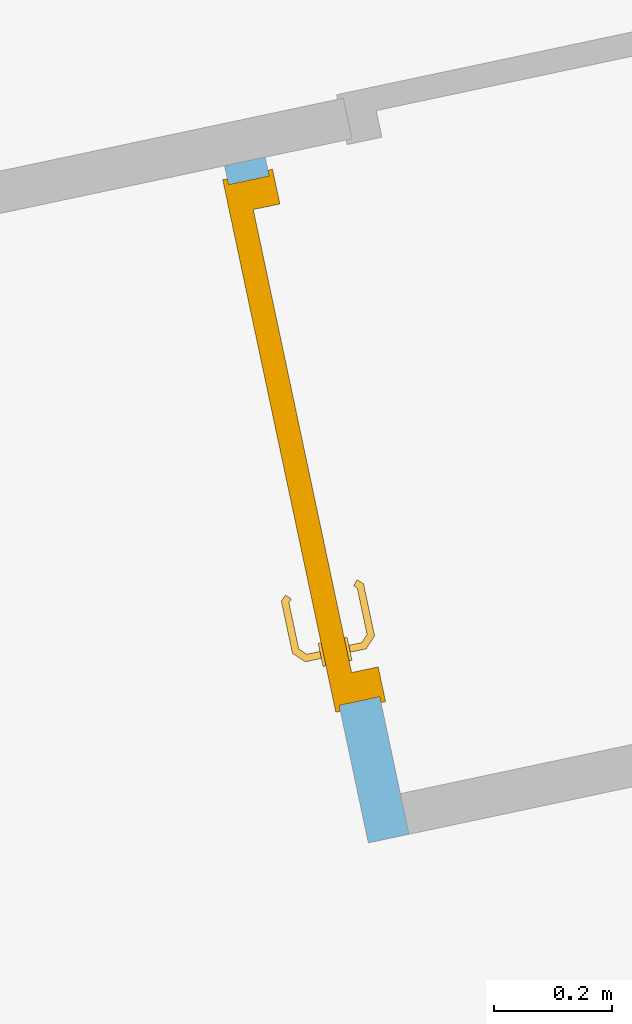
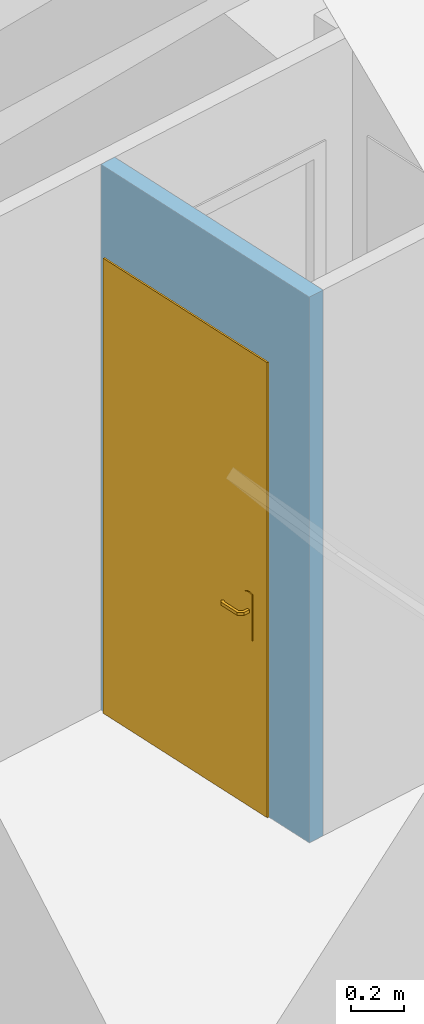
# One storey, part 6 of 10: 1 door, 1 opening, plus 1 element that does not belong to this part.
"""IFC2X3 building model written with IfcOpenShell, lengths in centimetres."""

from ifc_helpers import new_model, entity, si_unit, converted_unit, derived_unit, direction, frame, frame_2d, origin, place, context, subcontext, project, spatial, rectangle, extrude, faceted_brep, source, transform, mapped, material, layer, layer_set, layer_usage, type_object, type_shapes, element, fill, save


model = new_model("IFC2X3")

# Units and contexts
model_context = context("Model", 3, precision=0.001, world=origin(), true_north=direction((6.12303176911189e-17, 1.0)))
body_context = subcontext(model_context, "Body", "Model", "MODEL_VIEW")
ifc_project = project(units=[si_unit("LENGTHUNIT", "METRE", prefix="CENTI"), si_unit("AREAUNIT", "SQUARE_METRE"), si_unit("VOLUMEUNIT", "CUBIC_METRE"), converted_unit("PLANEANGLEUNIT", "DEGREE", entity("IfcRatioMeasure", 0.0174532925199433), si_unit("PLANEANGLEUNIT", "RADIAN"), dimensions=[0, 0, 0, 0, 0, 0, 0]), si_unit("MASSUNIT", "GRAM", prefix="KILO"), derived_unit("MASSDENSITYUNIT", [(si_unit("MASSUNIT", "GRAM", prefix="KILO"), 1), (si_unit("LENGTHUNIT", "METRE"), -3)]), derived_unit("IONCONCENTRATIONUNIT", [(si_unit("MASSUNIT", "GRAM", prefix="KILO"), 1), (si_unit("LENGTHUNIT", "METRE"), -3)]), derived_unit("MOMENTOFINERTIAUNIT", [(si_unit("LENGTHUNIT", "METRE"), 4)]), si_unit("TIMEUNIT", "SECOND"), si_unit("FREQUENCYUNIT", "HERTZ"), si_unit("THERMODYNAMICTEMPERATUREUNIT", "DEGREE_CELSIUS"), derived_unit("THERMALTRANSMITTANCEUNIT", [(si_unit("MASSUNIT", "GRAM", prefix="KILO"), 1), (si_unit("THERMODYNAMICTEMPERATUREUNIT", "KELVIN"), -1), (si_unit("TIMEUNIT", "SECOND"), -3)]), derived_unit("THERMALCONDUCTANCEUNIT", [(si_unit("MASSUNIT", "GRAM", prefix="KILO"), 1), (si_unit("THERMODYNAMICTEMPERATUREUNIT", "KELVIN"), -1), (si_unit("TIMEUNIT", "SECOND"), -3), (si_unit("LENGTHUNIT", "METRE"), 1)]), derived_unit("VOLUMETRICFLOWRATEUNIT", [(si_unit("LENGTHUNIT", "METRE"), 3), (si_unit("TIMEUNIT", "SECOND"), -1)]), derived_unit("MASSFLOWRATEUNIT", [(si_unit("MASSUNIT", "GRAM", prefix="KILO"), 1), (si_unit("TIMEUNIT", "SECOND"), -1)]), derived_unit("ROTATIONALFREQUENCYUNIT", [(si_unit("TIMEUNIT", "SECOND"), -1)]), si_unit("ELECTRICCURRENTUNIT", "AMPERE"), si_unit("ELECTRICVOLTAGEUNIT", "VOLT"), si_unit("POWERUNIT", "WATT"), si_unit("FORCEUNIT", "NEWTON", prefix="KILO"), si_unit("ILLUMINANCEUNIT", "LUX"), si_unit("LUMINOUSFLUXUNIT", "LUMEN"), si_unit("LUMINOUSINTENSITYUNIT", "CANDELA"), derived_unit("USERDEFINED", [(si_unit("MASSUNIT", "GRAM", prefix="KILO"), -1), (si_unit("LENGTHUNIT", "METRE"), -2), (si_unit("TIMEUNIT", "SECOND"), 3), (si_unit("LUMINOUSFLUXUNIT", "LUMEN"), 1)]), derived_unit("USERDEFINED", [(si_unit("MASSUNIT", "GRAM", prefix="KILO"), 1), (si_unit("TIMEUNIT", "SECOND"), -3), (si_unit("LENGTHUNIT", "METRE"), 3), (si_unit("ELECTRICCURRENTUNIT", "AMPERE"), -2)]), derived_unit("SOUNDPOWERUNIT", [(si_unit("MASSUNIT", "GRAM", prefix="KILO"), 1), (si_unit("TIMEUNIT", "SECOND"), -3), (si_unit("LENGTHUNIT", "METRE"), 2)]), derived_unit("SOUNDPRESSUREUNIT", [(si_unit("MASSUNIT", "GRAM", prefix="KILO"), 1), (si_unit("LENGTHUNIT", "METRE"), -1), (si_unit("TIMEUNIT", "SECOND"), -2)]), derived_unit("LINEARVELOCITYUNIT", [(si_unit("LENGTHUNIT", "METRE"), 1), (si_unit("TIMEUNIT", "SECOND"), -1)]), si_unit("PRESSUREUNIT", "PASCAL"), derived_unit("USERDEFINED", [(si_unit("MASSUNIT", "GRAM", prefix="KILO"), 1), (si_unit("LENGTHUNIT", "METRE"), -2), (si_unit("TIMEUNIT", "SECOND"), -2)]), derived_unit("LINEARFORCEUNIT", [(si_unit("MASSUNIT", "GRAM", prefix="KILO"), 1), (si_unit("TIMEUNIT", "SECOND"), -2)]), derived_unit("PLANARFORCEUNIT", [(si_unit("MASSUNIT", "GRAM", prefix="KILO"), 1), (si_unit("LENGTHUNIT", "METRE"), -1), (si_unit("TIMEUNIT", "SECOND"), -2)]), derived_unit("SPECIFICHEATCAPACITYUNIT", [(si_unit("THERMODYNAMICTEMPERATUREUNIT", "KELVIN"), -1), (si_unit("LENGTHUNIT", "METRE"), 2), (si_unit("TIMEUNIT", "SECOND"), -2)]), derived_unit("HEATINGVALUEUNIT", [(si_unit("LENGTHUNIT", "METRE"), 2), (si_unit("TIMEUNIT", "SECOND"), -2)]), derived_unit("VAPORPERMEABILITYUNIT", [(si_unit("LENGTHUNIT", "METRE"), -1), (si_unit("TIMEUNIT", "SECOND"), 1)]), derived_unit("DYNAMICVISCOSITYUNIT", [(si_unit("MASSUNIT", "GRAM", prefix="KILO"), 1), (si_unit("TIMEUNIT", "SECOND"), -1), (si_unit("LENGTHUNIT", "METRE"), -1)]), derived_unit("THERMALEXPANSIONCOEFFICIENTUNIT", [(si_unit("THERMODYNAMICTEMPERATUREUNIT", "KELVIN"), -1)]), derived_unit("MODULUSOFELASTICITYUNIT", [(si_unit("MASSUNIT", "GRAM", prefix="KILO"), 1), (si_unit("LENGTHUNIT", "METRE"), -1), (si_unit("TIMEUNIT", "SECOND"), -2)]), derived_unit("ISOTHERMALMOISTURECAPACITYUNIT", [(si_unit("LENGTHUNIT", "METRE"), 3), (si_unit("MASSUNIT", "GRAM", prefix="KILO"), -1)]), derived_unit("MOISTUREDIFFUSIVITYUNIT", [(si_unit("TIMEUNIT", "SECOND"), -1), (si_unit("LENGTHUNIT", "METRE"), 2)])], contexts=[model_context])

# Site, building, storey
site_placement = place(None, frame((14083.8920177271, -6853.25409548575, 6900.0), z_axis=(0.0, 0.0, 1.0), x_axis=(0.978188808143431, 0.207717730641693, 0.0)))
site = spatial("IfcSite", under=ifc_project, at=site_placement, Name="Surface", CompositionType="ELEMENT")
building_placement = place(site_placement, origin())
building = spatial("IfcBuilding", under=site, at=building_placement, CompositionType="ELEMENT")
storey_placement = place(building_placement, frame((0.0, 0.0, 289.0)))
storey = spatial("IfcBuildingStorey", under=building, at=storey_placement, Name="_R+1", CompositionType="ELEMENT", Elevation=289.0)

# Wall, opening, door
ifc_material_1 = material(Name="__ BA 13")
ifc_layer = layer(ifc_material_1, 7.0)
ifc_layer_set = layer_set([ifc_layer], Name="Mur de base:*Cloison 72/48 cm")
ifc_layer_usage = layer_usage(ifc_layer_set, "AXIS2", "NEGATIVE", 3.5)
wall_type = type_object("IfcWallType", Name="Mur de base:*Cloison 72/48 cm", PredefinedType="STANDARD", material=ifc_layer_set)
wall_placement = place(storey_placement, frame((-7287.4551432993, 15162.6724778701, 0.0), z_axis=(0.0, 0.0, 1.0), x_axis=(0.0, -1.0, 0.0)))
wall = element("IfcWallStandardCase", 1, at=wall_placement, inside=storey, type_object=wall_type, material=ifc_layer_usage, Name="Mur de base:*Cloison 72/48 cm", ObjectType="Mur de base:*Cloison 72/48 cm", context=body_context, shape_type="SweptSolid", body=[
    extrude(rectangle(XDim=116.999999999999, YDim=7.00000000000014, at=frame_2d((58.4999999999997, 0.0), x_axis=(1.0, 0.0))), origin(), (0.0, 0.0, 1.0), 250.0),
])
opening_placement = place(wall_placement, frame((93.2499999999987, 3.5, 0.0)))
opening = element("IfcOpeningElement", 2, at=opening_placement, cuts=wall, Name="*Porte_alveolaire:Pp 83 x 204:1", ObjectType="Opening", context=body_context, shape_type="SweptSolid", body=[
    extrude(rectangle(XDim=207.5, YDim=89.9999999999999, at=frame_2d((103.75, 45.0), x_axis=(1.0, 0.0))), frame((0.0, 0.0, 0.0), z_axis=(0.0, -1.0, 0.0), x_axis=(0.0, 0.0, 1.0)), (0.0, 0.0, 1.0), 7.0),
])
ifc_material_2 = material(Name="<Unnamed>")
door_style = type_object("IfcDoorStyle", Name="*Porte_alveolaire:Pp 83 x 204", ConstructionType="NOTDEFINED", OperationType="NOTDEFINED", ParameterTakesPrecedence=False, Sizeable=False, material=ifc_material_2)
shared_shape = source(origin(), body_context, "Body", "Brep", [
    faceted_brep([(81.2025298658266, 3.69990393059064, 90.7780440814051), (80.7974701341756, 3.69990393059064, 90.7780440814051), (80.3999999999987, 3.69990393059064, 90.699999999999), (80.3999999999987, 3.69990393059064, 89.300000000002), (80.7974701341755, 3.69990393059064, 89.221955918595), (81.2025298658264, 3.69990393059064, 89.2219559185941), (81.6000000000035, 3.69990393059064, 89.2999999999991), (81.6000000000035, 3.69990393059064, 90.699999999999), (80.3999999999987, 5.94842438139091, 90.699999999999), (80.3999999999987, 5.94842438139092, 89.300000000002), (80.7974701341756, 6.11306190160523, 90.7780440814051), (81.2025298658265, 6.28084313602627, 90.7780440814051), (79.5838906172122, 7.89948238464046, 90.7780440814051), (79.4161093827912, 7.49442265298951, 90.7780440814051), (71.079312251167, 7.49442265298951, 90.7780440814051), (70.911531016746, 7.89948238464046, 90.7780440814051), (70.1451046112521, 7.13305597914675, 90.7780440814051), (70.431525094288, 6.84663549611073, 90.7780440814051), (81.6000000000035, 6.44548065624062, 90.699999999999), (81.6000000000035, 6.44548065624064, 89.2999999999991), (81.2025298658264, 6.28084313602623, 89.2219559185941), (80.7974701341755, 6.1130619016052, 89.221955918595), (79.4161093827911, 7.49442265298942, 89.221955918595), (79.5838906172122, 7.89948238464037, 89.2219559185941), (70.911531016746, 7.89948238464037, 89.221955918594), (71.079312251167, 7.49442265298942, 89.221955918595), (70.4315250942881, 6.84663549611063, 89.221955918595), (70.1451046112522, 7.13305597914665, 89.221955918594), (79.2514718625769, 7.09695251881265, 89.300000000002), (79.2514718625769, 7.09695251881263, 90.699999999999), (79.7485281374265, 8.29695251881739, 90.699999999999), (79.7485281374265, 8.29695251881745, 89.2999999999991), (75.2477108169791, 7.0969525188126, 90.699999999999), (71.2439497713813, 7.09695251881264, 90.699999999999), (71.2439497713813, 7.09695251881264, 89.300000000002), (75.2477108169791, 7.09695251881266, 89.300000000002), (75.247710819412, 7.71239668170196, 90.7878116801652), (74.7399422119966, 8.29695251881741, 90.699999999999), (70.7468934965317, 8.29695251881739, 90.699999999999), (75.7554791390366, 8.29695251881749, 89.2999999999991), (70.7468934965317, 8.29695251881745, 89.2999999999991), (75.2477107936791, 7.71239667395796, 89.2121883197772), (69.8640507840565, 7.41410980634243, 90.699999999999), (69.8640507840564, 7.41410980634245, 89.2999999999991), (70.7125789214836, 6.56558166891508, 89.300000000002), (70.7125789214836, 6.56558166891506, 90.699999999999)], [[[0, 1, 2, 3, 4, 5, 6, 7]], [[8, 9, 3, 2]], [[1, 10, 8, 2]], [[1, 0, 11, 12, 13, 10]], [[14, 15, 16, 17]], [[7, 18, 11, 0]], [[18, 7, 6, 19]], [[6, 5, 20, 19]], [[5, 4, 21, 22, 23, 20]], [[24, 25, 26, 27]], [[4, 3, 9, 21]], [[28, 9, 8, 29]], [[8, 10, 13, 29]], [[18, 30, 12, 11]], [[31, 30, 18, 19]], [[19, 20, 23, 31]], [[21, 9, 28, 22]], [[28, 29, 32, 33, 34, 35]], [[36, 32, 13]], [[37, 38, 15]], [[37, 12, 30]], [[36, 12, 37]], [[14, 32, 36]], [[36, 15, 14]], [[29, 13, 32]], [[32, 14, 33]], [[12, 36, 13]], [[15, 36, 37]], [[30, 31, 39, 40, 38, 37]], [[23, 41, 39]], [[24, 39, 41]], [[39, 31, 23]], [[39, 24, 40]], [[22, 35, 41]], [[41, 23, 22]], [[41, 35, 25]], [[35, 22, 28]], [[34, 25, 35]], [[24, 41, 25]], [[17, 16, 42, 43, 27, 26, 44, 45]], [[44, 34, 33, 45]], [[33, 14, 17, 45]], [[15, 38, 42, 16]], [[42, 38, 40, 43]], [[24, 27, 43, 40]], [[34, 44, 26, 25]]]),
    faceted_brep([(80.7974701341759, -1.30009606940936, 90.7780440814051), (81.2025298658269, -1.30009606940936, 90.7780440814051), (81.6000000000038, -1.30009606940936, 90.6999999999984), (81.6000000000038, -1.30009606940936, 89.2999999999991), (81.2025298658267, -1.30009606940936, 89.221955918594), (80.7974701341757, -1.30009606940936, 89.221955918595), (80.399999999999, -1.30009606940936, 89.3000000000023), (80.3999999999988, -1.30009606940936, 90.699999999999), (81.2025298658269, -3.90055361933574, 90.7780440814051), (81.600000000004, -4.06519113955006, 90.6999999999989), (80.7974701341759, -3.73277238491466, 90.7780440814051), (79.4298602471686, -5.10038227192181, 90.7780440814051), (79.5976414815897, -5.50544200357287, 90.7780440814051), (70.9142453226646, -5.50544200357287, 90.778044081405), (71.0820265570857, -5.10038227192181, 90.778044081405), (70.4342394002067, -4.45259511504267, 90.778044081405), (70.1478189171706, -4.73901559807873, 90.778044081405), (80.3999999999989, -3.56813486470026, 90.699999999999), (80.399999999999, -3.56813486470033, 89.3000000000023), (80.7974701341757, -3.73277238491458, 89.221955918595), (81.2025298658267, -3.90055361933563, 89.221955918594), (79.5976414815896, -5.5054420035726, 89.221955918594), (79.4298602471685, -5.10038227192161, 89.221955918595), (71.0820265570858, -5.10038227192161, 89.221955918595), (70.9142453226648, -5.50544200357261, 89.221955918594), (70.1478189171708, -4.73901559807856, 89.221955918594), (70.4342394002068, -4.45259511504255, 89.221955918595), (81.6000000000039, -4.06519113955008, 89.2999999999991), (79.7622790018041, -5.90291213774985, 90.6999999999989), (79.2652227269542, -4.70291213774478, 90.699999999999), (79.2652227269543, -4.70291213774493, 89.3000000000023), (79.762279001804, -5.90291213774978, 89.2999999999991), (75.2559433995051, -5.31837634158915, 90.7878115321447), (75.7692302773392, -5.90291213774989, 90.6999999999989), (70.7496078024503, -5.9029121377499, 90.6999999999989), (75.2559434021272, -4.70291213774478, 90.699999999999), (71.2466640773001, -4.70291213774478, 90.6999999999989), (75.2559436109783, -4.70291213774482, 89.3000000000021), (71.2466640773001, -4.70291213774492, 89.3000000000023), (75.2559434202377, -5.31837634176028, 89.2121884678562), (74.7426576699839, -5.90291213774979, 89.2999999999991), (70.7496078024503, -5.90291213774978, 89.2999999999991), (70.7152932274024, -4.17154128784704, 89.300000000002), (69.866765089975, -5.02006942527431, 89.2999999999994), (69.8667650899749, -5.02006942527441, 90.6999999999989), (70.7152932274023, -4.1715412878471, 90.6999999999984)], [[[0, 1, 2, 3, 4, 5, 6, 7]], [[2, 1, 8, 9]], [[1, 0, 10, 11, 12, 8]], [[13, 14, 15, 16]], [[0, 7, 17, 10]], [[18, 17, 7, 6]], [[5, 19, 18, 6]], [[5, 4, 20, 21, 22, 19]], [[23, 24, 25, 26]], [[3, 27, 20, 4]], [[9, 27, 3, 2]], [[9, 8, 12, 28]], [[10, 17, 29, 11]], [[30, 29, 17, 18]], [[18, 19, 22, 30]], [[20, 27, 31, 21]], [[28, 31, 27, 9]], [[12, 32, 33]], [[13, 33, 32]], [[33, 28, 12]], [[33, 13, 34]], [[11, 35, 32]], [[32, 12, 11]], [[32, 35, 14]], [[35, 11, 29]], [[36, 14, 35]], [[13, 32, 14]], [[30, 37, 38, 36, 35, 29]], [[39, 37, 22]], [[40, 41, 24]], [[40, 21, 31]], [[39, 21, 40]], [[23, 37, 39]], [[39, 24, 23]], [[30, 22, 37]], [[37, 23, 38]], [[21, 39, 22]], [[24, 39, 40]], [[31, 28, 33, 34, 41, 40]], [[42, 26, 25, 43, 44, 16, 15, 45]], [[13, 16, 44, 34]], [[36, 45, 15, 14]], [[42, 45, 36, 38]], [[38, 23, 26, 42]], [[24, 41, 43, 25]], [[44, 43, 41, 34]]]),
    faceted_brep([(83.0, 3.19990393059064, 77.0), (83.0, 3.19990393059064, 98.0), (82.0352761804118, 3.19990393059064, 98.3996016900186), (81.0, 3.19990393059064, 98.5358983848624), (79.9647238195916, 3.19990393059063, 98.3996016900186), (79.0, 3.19990393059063, 98.0), (79.0, 3.19990393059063, 77.0), (79.9647238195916, 3.19990393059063, 76.6003983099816), (81.0, 3.19990393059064, 76.4641016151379), (82.0352761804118, 3.19990393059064, 76.6003983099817), (81.0, 3.69990393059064, 98.5358983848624), (82.0352761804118, 3.69990393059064, 98.3996016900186), (83.0, 3.69990393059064, 98.0), (83.0, 3.69990393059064, 77.0), (82.0352761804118, 3.69990393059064, 76.6003983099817), (81.0, 3.69990393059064, 76.4641016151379), (79.9647238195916, 3.69990393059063, 76.6003983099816), (79.0, 3.69990393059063, 77.0), (79.0, 3.69990393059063, 98.0), (79.9647238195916, 3.69990393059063, 98.3996016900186)], [[[0, 1, 2, 3, 4, 5, 6, 7, 8, 9]], [[10, 11, 12, 13, 14, 15, 16, 17, 18, 19]], [[4, 19, 18, 5]], [[3, 10, 19, 4]], [[2, 11, 10, 3]], [[2, 1, 12, 11]], [[12, 1, 0, 13]], [[9, 14, 13, 0]], [[8, 15, 14, 9]], [[7, 16, 15, 8]], [[7, 6, 17, 16]], [[17, 6, 5, 18]]]),
    faceted_brep([(81.0, -1.30009606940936, 76.4641016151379), (82.0352761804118, -1.30009606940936, 76.6003983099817), (83.0, -1.30009606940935, 77.0), (83.0, -1.30009606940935, 98.0), (82.0352761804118, -1.30009606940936, 98.3996016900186), (81.0, -1.30009606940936, 98.5358983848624), (79.9647238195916, -1.30009606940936, 98.3996016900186), (79.0, -1.30009606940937, 98.0), (79.0, -1.30009606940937, 77.0), (79.9647238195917, -1.30009606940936, 76.6003983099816), (83.0, -0.800096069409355, 98.0), (83.0, -0.800096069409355, 77.0), (82.0352761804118, -0.800096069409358, 76.6003983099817), (81.0, -0.800096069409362, 76.4641016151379), (79.9647238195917, -0.800096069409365, 76.6003983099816), (79.0, -0.800096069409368, 77.0), (79.0, -0.800096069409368, 98.0), (79.9647238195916, -0.800096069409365, 98.3996016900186), (81.0, -0.800096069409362, 98.5358983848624), (82.0352761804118, -0.800096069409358, 98.3996016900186)], [[[0, 1, 2, 3, 4, 5, 6, 7, 8, 9]], [[10, 11, 12, 13, 14, 15, 16, 17, 18, 19]], [[1, 12, 11, 2]], [[0, 13, 12, 1]], [[9, 14, 13, 0]], [[9, 8, 15, 14]], [[15, 8, 7, 16]], [[6, 17, 16, 7]], [[5, 18, 17, 6]], [[4, 19, 18, 5]], [[4, 3, 10, 19]], [[10, 3, 2, 11]]]),
    faceted_brep([(90.0, -9.60694093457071e-05, 0.0), (91.0, -9.60694093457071e-05, 0.0), (91.0, -0.800096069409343, 0.0), (86.5000000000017, -0.800096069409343, 0.0), (86.5000000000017, 3.19990393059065, 0.0), (85.0, 3.19990393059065, 0.0), (85.0, 7.79990393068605, 0.0), (91.0, 7.79990393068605, 0.0), (91.0, 6.99990393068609, 0.0), (90.0, 6.99990393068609, 0.0), (90.0, 6.99990393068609, 207.5), (90.0, -9.60694093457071e-05, 207.5), (91.0, 6.99990393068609, 208.5), (-1.0, 6.99990393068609, 208.5), (-1.0, 6.99990393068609, 0.0), (0.0, 6.99990393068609, 0.0), (0.0, 6.99990393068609, 207.5), (91.0, 7.79990393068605, 208.5), (85.0, 7.79990393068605, 202.500000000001), (5.0, 7.79990393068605, 202.500000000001), (5.0, 7.79990393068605, 0.0), (-1.0, 7.79990393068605, 0.0), (-1.0, 7.79990393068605, 208.5), (85.0, 3.19990393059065, 202.500000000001), (86.5000000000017, 3.19990393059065, 204.0), (3.50000000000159, 3.19990393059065, 204.0), (3.50000000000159, 3.19990393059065, 0.0), (5.0, 3.19990393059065, 0.0), (5.0, 3.19990393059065, 202.500000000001), (86.5000000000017, -0.800096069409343, 204.0), (91.0, -0.800096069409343, 208.5), (-1.0, -0.800096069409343, 208.5), (-1.0, -0.800096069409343, 0.0), (3.50000000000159, -0.800096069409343, 0.0), (3.50000000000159, -0.800096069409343, 204.0), (91.0, -9.60694093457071e-05, 208.5), (0.0, -9.60694093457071e-05, 207.5), (0.0, -9.60694093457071e-05, 0.0), (-1.0, -9.60694093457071e-05, 0.0), (-1.0, -9.60694093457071e-05, 208.5)], [[[0, 1, 2, 3, 4, 5, 6, 7, 8, 9]], [[9, 10, 11, 0]], [[8, 12, 13, 14, 15, 16, 10, 9]], [[7, 17, 12, 8]], [[6, 18, 19, 20, 21, 22, 17, 7]], [[5, 23, 18, 6]], [[4, 24, 25, 26, 27, 28, 23, 5]], [[3, 29, 24, 4]], [[2, 30, 31, 32, 33, 34, 29, 3]], [[1, 35, 30, 2]], [[0, 11, 36, 37, 38, 39, 35, 1]], [[16, 15, 37, 36]], [[37, 15, 14, 21, 20, 27, 26, 33, 32, 38]], [[22, 21, 14, 13]], [[28, 27, 20, 19]], [[34, 33, 26, 25]], [[39, 38, 32, 31]], [[10, 16, 36, 11]], [[17, 22, 13, 12]], [[23, 28, 19, 18]], [[29, 34, 25, 24]], [[35, 39, 31, 30]]]),
    faceted_brep([(86.5000000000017, -0.800096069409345, 204.0), (3.50000000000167, -0.800096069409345, 204.0), (3.50000000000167, -0.800096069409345, 0.0), (86.5000000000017, -0.800096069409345, 0.0), (86.5000000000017, 3.19990393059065, 204.0), (86.5000000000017, 3.19990393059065, 0.0), (3.50000000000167, 3.19990393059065, 0.0), (3.50000000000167, 3.19990393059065, 204.0)], [[[0, 1, 2, 3]], [[4, 5, 6, 7]], [[3, 5, 4, 0]], [[2, 6, 5, 3]], [[1, 7, 6, 2]], [[0, 4, 7, 1]]]),
])
type_shapes(door_style, [shared_shape])
door_placement = place(opening_placement, frame((-90.0, -6.99990393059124, 0.0)))
door = element("IfcDoor", 3, at=door_placement, inside=storey, type_object=door_style, material=ifc_material_2, Name="*Porte_alveolaire:Pp 83 x 204", ObjectType="*Porte_alveolaire:Pp 83 x 204", OverallHeight=207.5, OverallWidth=90.0000000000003, context=body_context, shape_type="MappedRepresentation", body=[
    mapped(shared_shape, transform((0.0, 0.0, 0.0), scale=1.0)),
])
fill(opening, door)

save(model, "model.ifc")
